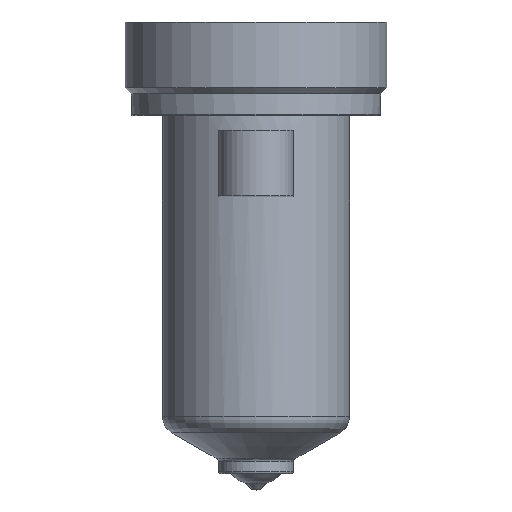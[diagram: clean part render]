
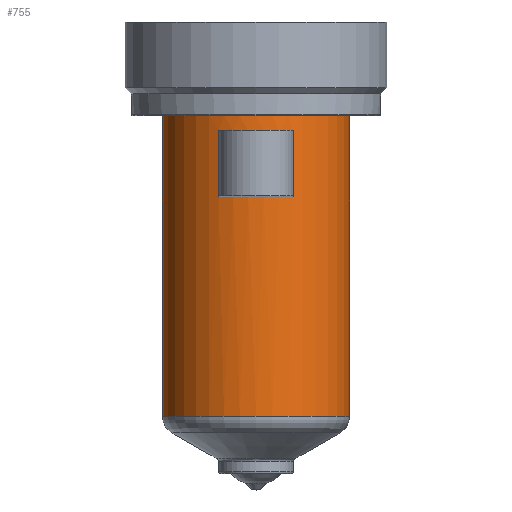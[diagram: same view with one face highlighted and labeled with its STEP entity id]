
A CAD part, top view. The second image highlights one B-rep face of the part: STEP entity #755.
In plain terms, the highlighted cylindrical face has radius 15 mm (diameter 30 mm), a partial arc.
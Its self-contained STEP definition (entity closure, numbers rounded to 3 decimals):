
#161=DIRECTION('',(0.,-1.,0.));
#162=VECTOR('',#161,48.226);
#163=CARTESIAN_POINT('',(15.,0.,0.));
#164=LINE('',#163,#162);
#165=CARTESIAN_POINT('',(0.,-48.226,0.));
#166=DIRECTION('',(0.,1.,0.));
#167=DIRECTION('',(-1.,0.,0.));
#168=AXIS2_PLACEMENT_3D('',#165,#166,#167);
#170=DIRECTION('',(0.,1.,0.));
#171=VECTOR('',#170,48.226);
#172=CARTESIAN_POINT('',(-15.,-48.226,0.));
#173=LINE('',#172,#171);
#174=CARTESIAN_POINT('',(0.,0.,0.));
#175=DIRECTION('',(0.,1.,0.));
#176=DIRECTION('',(-1.,0.,0.));
#177=AXIS2_PLACEMENT_3D('',#174,#175,#176);
#341=DIRECTION('',(0.,-1.,0.));
#342=VECTOR('',#341,10.5);
#343=CARTESIAN_POINT('',(-6.,-2.5,13.748));
#344=LINE('',#343,#342);
#353=CARTESIAN_POINT('',(0.,-13.,0.));
#354=DIRECTION('',(0.,1.,0.));
#355=DIRECTION('',(-0.4,0.,0.917));
#356=AXIS2_PLACEMENT_3D('',#353,#354,#355);
#367=DIRECTION('',(0.,-1.,0.));
#368=VECTOR('',#367,10.5);
#369=CARTESIAN_POINT('',(6.,-2.5,13.748));
#370=LINE('',#369,#368);
#388=CARTESIAN_POINT('',(0.,-2.5,0.));
#389=DIRECTION('',(0.,-1.,0.));
#390=DIRECTION('',(0.4,0.,0.917));
#391=AXIS2_PLACEMENT_3D('',#388,#389,#390);
#476=CARTESIAN_POINT('',(-15.,0.,0.));
#477=CARTESIAN_POINT('',(15.,0.,0.));
#478=VERTEX_POINT('',#476);
#479=VERTEX_POINT('',#477);
#488=CARTESIAN_POINT('',(6.,-2.5,13.748));
#489=VERTEX_POINT('',#488);
#490=CARTESIAN_POINT('',(-6.,-2.5,13.748));
#491=VERTEX_POINT('',#490);
#500=CARTESIAN_POINT('',(15.,-48.226,0.));
#501=VERTEX_POINT('',#500);
#510=CARTESIAN_POINT('',(-15.,-48.226,0.));
#511=VERTEX_POINT('',#510);
#512=CARTESIAN_POINT('',(6.,-13.,13.748));
#513=VERTEX_POINT('',#512);
#514=CARTESIAN_POINT('',(-6.,-13.,13.748));
#515=VERTEX_POINT('',#514);
#733=CARTESIAN_POINT('',(0.,16.4,0.));
#734=DIRECTION('',(0.,-1.,0.));
#735=DIRECTION('',(-1.,0.,0.));
#736=AXIS2_PLACEMENT_3D('',#733,#734,#735);
#737=CYLINDRICAL_SURFACE('',#736,15.);
#738=ORIENTED_EDGE('',*,*,#727,.T.);
#740=ORIENTED_EDGE('',*,*,#739,.F.);
#741=ORIENTED_EDGE('',*,*,#723,.T.);
#742=ORIENTED_EDGE('',*,*,#713,.T.);
#743=EDGE_LOOP('',(#738,#740,#741,#742));
#744=FACE_OUTER_BOUND('',#743,.F.);
#746=ORIENTED_EDGE('',*,*,#745,.T.);
#748=ORIENTED_EDGE('',*,*,#747,.T.);
#750=ORIENTED_EDGE('',*,*,#749,.F.);
#752=ORIENTED_EDGE('',*,*,#751,.T.);
#753=EDGE_LOOP('',(#746,#748,#750,#752));
#754=FACE_BOUND('',#753,.F.);
#755=ADVANCED_FACE('',(#744,#754),#737,.T.);
#169=CIRCLE('',#168,15.);
#178=CIRCLE('',#177,15.);
#357=CIRCLE('',#356,15.);
#392=CIRCLE('',#391,15.);
#713=EDGE_CURVE('',#478,#479,#178,.T.);
#723=EDGE_CURVE('',#511,#478,#173,.T.);
#727=EDGE_CURVE('',#479,#501,#164,.T.);
#739=EDGE_CURVE('',#511,#501,#169,.T.);
#745=EDGE_CURVE('',#491,#515,#344,.T.);
#747=EDGE_CURVE('',#515,#513,#357,.T.);
#749=EDGE_CURVE('',#489,#513,#370,.T.);
#751=EDGE_CURVE('',#489,#491,#392,.T.);
